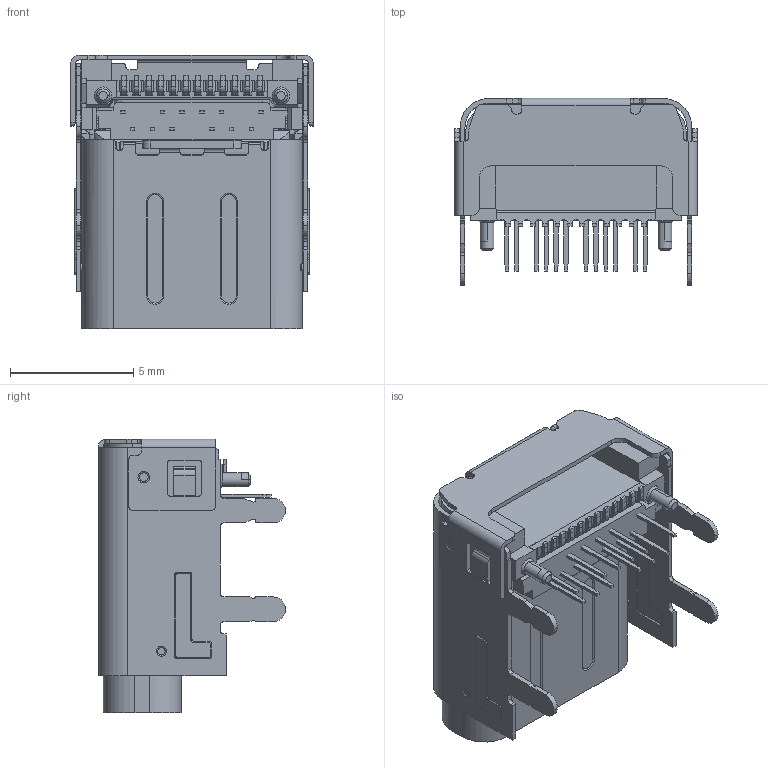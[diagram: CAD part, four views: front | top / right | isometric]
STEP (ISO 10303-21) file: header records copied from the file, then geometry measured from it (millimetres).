
FILE_DESCRIPTION((''),'2;1');
FILE_NAME('ASM0002_ASM','2023-11-21T08:50:42',('Administrator'),(''),'CREO PARAMETRIC BY PTC INC, 2022484','CREO PARAMETRIC BY PTC INC, 2022484','');
FILE_SCHEMA(('CONFIG_CONTROL_DESIGN'));
Products named in the file (42): MAIN-IM-HSG_13_9_1_1_1_1_1; UPPER-IM-HSG_39_1_36_1_1_2_AF_1; UPPER-IM-HSG_39_ASM_2_1_ASM_1_1_ASM; UPPER-TERMINAL_12_63_1_1_1_A__1; UPPER-TERMINAL_12_63_1_1_1_A__2; UPPER-TERMINAL_12_63_1_1_1_A__3; UPPER-TERMINAL_12_63_1_1_1_A__4; UPPER-TERMINAL_12_63_1_1_1_A__5; UPPER-TERMINAL_12_63_1_1_1_A__6; UPPER-TERMINAL_12_63_1_1_1_A__7; UPPER-TERMINAL_12_63_1_1_1_A__8; UPPER-TERMINAL_12_63_1_1_1_A__9; UPPER-TERMINAL_12_63_1_1_1_A_14; UPPER-TERMINAL_12_63_1_1_1_A_15; UPPER-TERMINAL_12_63_1_1_1_A_16; UPPER-TERMINAL_12_63_1_1_1_A_13_ASM; UPPER-IM_ASM_ASM_26_ASM_26_1__1_ASM; MID-PLATE_19_10_1_1_3_1_1; DIP-IM-HSG1_25_24_1_1_1_1_1; DIP-IM-HSG2_8_1_1_1_1_1_1; DIP-TERMINAL-2_7_58_1_1_2_AF__1; DIP-TERMINAL-2_7_58_1_1_2_AF__2; DIP-TERMINAL-2_7_58_1_1_2_AF__3; DIP-TERMINAL-2_7_58_1_1_2_AF__4; DIP-TERMINAL-2_7_58_1_1_2_AF__5; DIP-TERMINAL-2_7_58_1_1_2_AF__6; DIP-TERMINAL-2_7_58_1_1_2_AF__7; DIP-TERMINAL-2_7_58_1_1_2_AF__8; DIP-TERMINAL-2_7_58_1_1_2_AF__9; DIP-TERMINAL-2_7_58_1_1_2_AF_15; DIP-TERMINAL-2_7_58_1_1_2_AF_16; DIP-TERMINAL-2_7_58_1_1_2_AF_17; DIP-TERMINAL-2_7_58_1_1_2_AF_14_ASM; DIP-IM_ASM_ASM_37_ASM_26_1_AS_1_ASM; MAIN-IM_ASM_ASM_65_ASM_21_1_A_1_ASM; MAIN_SHELL_4_1_1_1_1_AF0_1_1; OUT_SHELL_2_2_1_1_1_1_AF0_1_1; TPC-CH340_ASM_4_ASM_3_1_ASM_1_1_ASM; ASM0001_ASM_1_ASM_1_AF0_ASM_1_1_ASM; TPC24PIN-CH340-SMT_DIP-202302_3_ASM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
Assembly tree (41 placements, depth 9):
  ASM0002_ASM
    TPC24PIN-CH340-SMT_DIP-202302_4_ASM
      TPC24PIN-CH340-SMT_DIP-202302_3_ASM
        ASM0001_ASM_1_ASM_1_AF0_ASM_1_1_ASM
          TPC-CH340_ASM_4_ASM_3_1_ASM_1_1_ASM
            MAIN-IM_ASM_ASM_65_ASM_21_1_A_1_ASM
              MAIN-IM-HSG_13_9_1_1_1_1_1
              UPPER-IM_ASM_ASM_26_ASM_26_1__1_ASM
                UPPER-IM-HSG_39_ASM_2_1_ASM_1_1_ASM
                  UPPER-IM-HSG_39_1_36_1_1_2_AF_1
                UPPER-TERMINAL_12_63_1_1_1_A_13_ASM
                  UPPER-TERMINAL_12_63_1_1_1_A__1
                  UPPER-TERMINAL_12_63_1_1_1_A__2
                  UPPER-TERMINAL_12_63_1_1_1_A__3
                  UPPER-TERMINAL_12_63_1_1_1_A__4
                  UPPER-TERMINAL_12_63_1_1_1_A__5
                  UPPER-TERMINAL_12_63_1_1_1_A__6
                  UPPER-TERMINAL_12_63_1_1_1_A__7
                  UPPER-TERMINAL_12_63_1_1_1_A__8
                  UPPER-TERMINAL_12_63_1_1_1_A__9
                  UPPER-TERMINAL_12_63_1_1_1_A_14
                  UPPER-TERMINAL_12_63_1_1_1_A_15
                  UPPER-TERMINAL_12_63_1_1_1_A_16
              MID-PLATE_19_10_1_1_3_1_1
              DIP-IM_ASM_ASM_37_ASM_26_1_AS_1_ASM
                DIP-IM-HSG1_25_24_1_1_1_1_1
                DIP-IM-HSG2_8_1_1_1_1_1_1
                DIP-TERMINAL-2_7_58_1_1_2_AF_14_ASM
                  DIP-TERMINAL-2_7_58_1_1_2_AF__1
                  DIP-TERMINAL-2_7_58_1_1_2_AF__2
                  DIP-TERMINAL-2_7_58_1_1_2_AF__3
                  DIP-TERMINAL-2_7_58_1_1_2_AF__4
                  DIP-TERMINAL-2_7_58_1_1_2_AF__5
                  DIP-TERMINAL-2_7_58_1_1_2_AF__6
                  DIP-TERMINAL-2_7_58_1_1_2_AF__7
                  DIP-TERMINAL-2_7_58_1_1_2_AF__8
                  DIP-TERMINAL-2_7_58_1_1_2_AF__9
                  DIP-TERMINAL-2_7_58_1_1_2_AF_15
                  DIP-TERMINAL-2_7_58_1_1_2_AF_16
                  DIP-TERMINAL-2_7_58_1_1_2_AF_17
            MAIN_SHELL_4_1_1_1_1_AF0_1_1
            OUT_SHELL_2_2_1_1_1_1_AF0_1_1
Bounding box: 9.84 x 7.58 x 11.1 mm (x, y, z)
Volume: 253.5 mm3; surface area: 1785.7 mm2
Topology: 31 solids, 69 shells, 3794 faces, 10708 edges, 7065 vertices
Faces by surface type: plane 2802, cylinder 888, torus 48, cone 36, bspline 20
Entity records: 124015 total; most frequent: CARTESIAN_POINT 23095, ORIENTED_EDGE 21416, DIRECTION 20358, EDGE_CURVE 10708, VECTOR 8530, LINE 8530, VERTEX_POINT 7065, AXIS2_PLACEMENT_3D 5914
